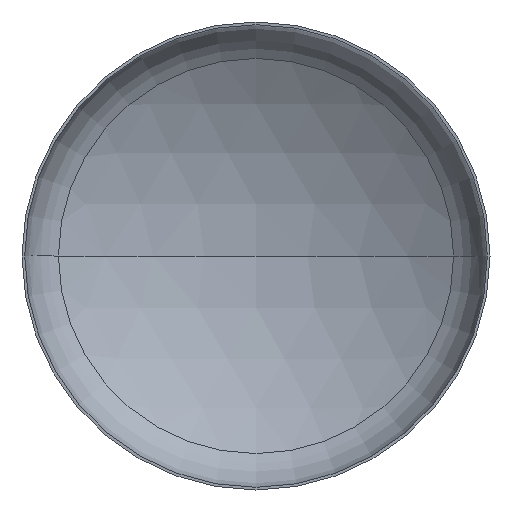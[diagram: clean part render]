
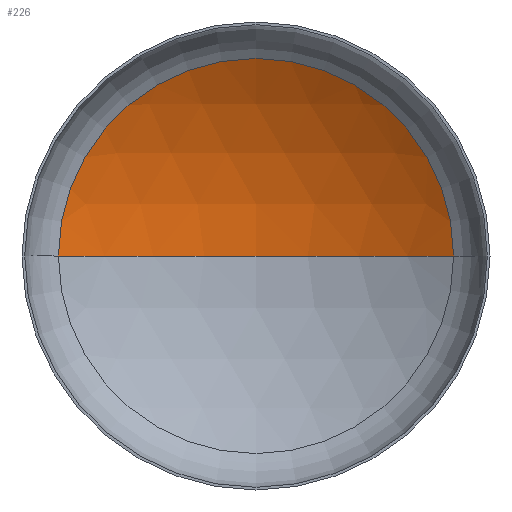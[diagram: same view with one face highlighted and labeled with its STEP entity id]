
A CAD part, front view. The second image highlights one B-rep face of the part: STEP entity #226.
In plain terms, the highlighted spherical face has radius 1520 mm.
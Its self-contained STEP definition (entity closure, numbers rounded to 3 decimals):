
#8 = AXIS2_PLACEMENT_3D ( 'NONE', #154, #156, #351 ) ;
#15 = AXIS2_PLACEMENT_3D ( 'NONE', #103, #153, #146 ) ;
#16 = AXIS2_PLACEMENT_3D ( 'NONE', #233, #110, #286 ) ;
#21 = EDGE_LOOP ( 'NONE', ( #99, #107, #46 ) ) ;
#32 = CARTESIAN_POINT ( 'NONE',  ( 0., 515.156, 0. ) ) ;
#46 = ORIENTED_EDGE ( 'NONE', *, *, #335, .T. ) ;
#50 = FACE_OUTER_BOUND ( 'NONE', #21, .T. ) ;
#72 = CIRCLE ( 'NONE', #15, 1520. ) ;
#89 = VERTEX_POINT ( 'NONE', #207 ) ;
#99 = ORIENTED_EDGE ( 'NONE', *, *, #315, .F. ) ;
#103 = CARTESIAN_POINT ( 'NONE',  ( 0., -1004.844, 0. ) ) ;
#107 = ORIENTED_EDGE ( 'NONE', *, *, #309, .T. ) ;
#110 = DIRECTION ( 'NONE',  ( 0., 0., -1. ) ) ;
#131 = AXIS2_PLACEMENT_3D ( 'NONE', #187, #245, #407 ) ;
#146 = DIRECTION ( 'NONE',  ( -1., 0., 0. ) ) ;
#153 = DIRECTION ( 'NONE',  ( 0., 0., -1. ) ) ;
#154 = CARTESIAN_POINT ( 'NONE',  ( 0., -1004.844, 0. ) ) ;
#156 = DIRECTION ( 'NONE',  ( 0., 0., 1. ) ) ;
#160 = VERTEX_POINT ( 'NONE', #32 ) ;
#176 = SPHERICAL_SURFACE ( 'NONE', #16, 1520. ) ;
#187 = CARTESIAN_POINT ( 'NONE',  ( 0., 286.345, 0. ) ) ;
#207 = CARTESIAN_POINT ( 'NONE',  ( -802.016, 286.345, 0. ) ) ;
#221 = VERTEX_POINT ( 'NONE', #230 ) ;
#226 = ADVANCED_FACE ( 'NONE', ( #50 ), #176, .F. ) ;
#229 = CIRCLE ( 'NONE', #131, 802.016 ) ;
#230 = CARTESIAN_POINT ( 'NONE',  ( 802.016, 286.345, 0. ) ) ;
#233 = CARTESIAN_POINT ( 'NONE',  ( 0., -1004.844, 0. ) ) ;
#245 = DIRECTION ( 'NONE',  ( 0., -1., 0. ) ) ;
#286 = DIRECTION ( 'NONE',  ( -1., 0., 0. ) ) ;
#298 = CIRCLE ( 'NONE', #8, 1520. ) ;
#309 = EDGE_CURVE ( 'NONE', #160, #221, #72, .T. ) ;
#315 = EDGE_CURVE ( 'NONE', #160, #89, #298, .T. ) ;
#335 = EDGE_CURVE ( 'NONE', #221, #89, #229, .T. ) ;
#351 = DIRECTION ( 'NONE',  ( 1., 0., 0. ) ) ;
#407 = DIRECTION ( 'NONE',  ( 1., 0., 0. ) ) ;
